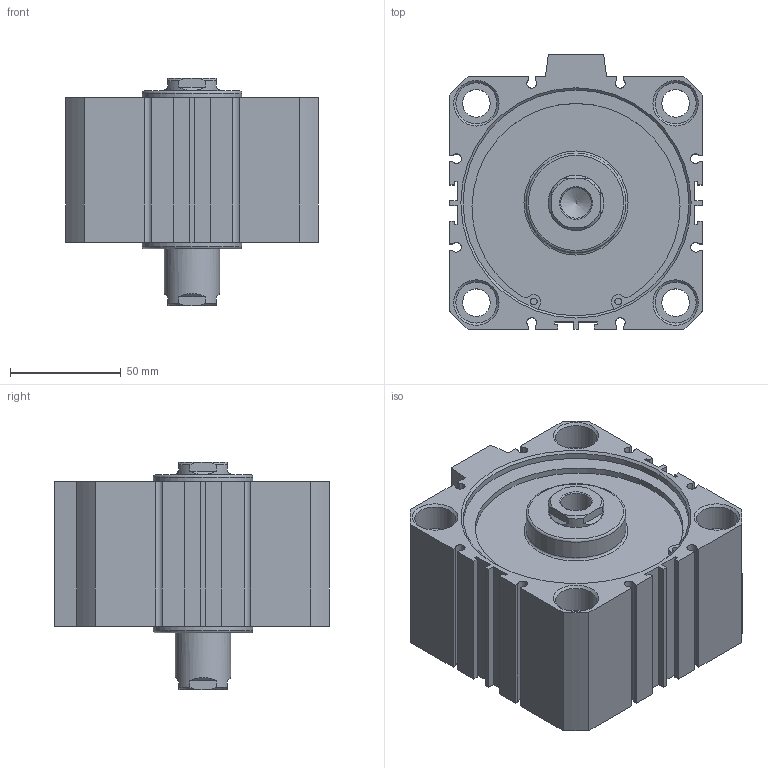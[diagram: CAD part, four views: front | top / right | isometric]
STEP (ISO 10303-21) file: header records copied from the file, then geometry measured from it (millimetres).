
FILE_DESCRIPTION((''),'2;1');
FILE_NAME('I:\3D電子目錄\氣缸\JDD\JDD\JDD100\JDD100x20.stp','2007-02-08T11:55:29',('662F206'),(''),'Autodesk Inventor 10','Autodesk Inventor 10','');
FILE_SCHEMA(('AUTOMOTIVE_DESIGN { 1 0 10303 214 1 1 1 1 }'));
Length unit declared in the file: millimetre
Products named in the file (3): JDD100; R 形環 100
Assembly tree (3 placements, depth 2):
  JDD100
    JDD100
    R 形環 100  x2
Bounding box: 114 x 124 x 102.7 mm (x, y, z)
Volume: 706118.3 mm3; surface area: 101575.6 mm2
Topology: 3 solids, 3 shells, 200 faces, 502 edges, 330 vertices
Faces by surface type: plane 116, cylinder 52, cone 24, bspline 6, torus 2
Full cylindrical faces by diameter (mm): 3.1 x4, 3.5 x2, 12.5 x4, 18.5 x8, 25 x2, 45 x2, 102 x4, 106 x2
Entity records: 5511 total; most frequent: CARTESIAN_POINT 1094, DIRECTION 908, ORIENTED_EDGE 824, EDGE_CURVE 412, AXIS2_PLACEMENT_3D 324, VERTEX_POINT 300, EDGE_LOOP 272, VECTOR 260
